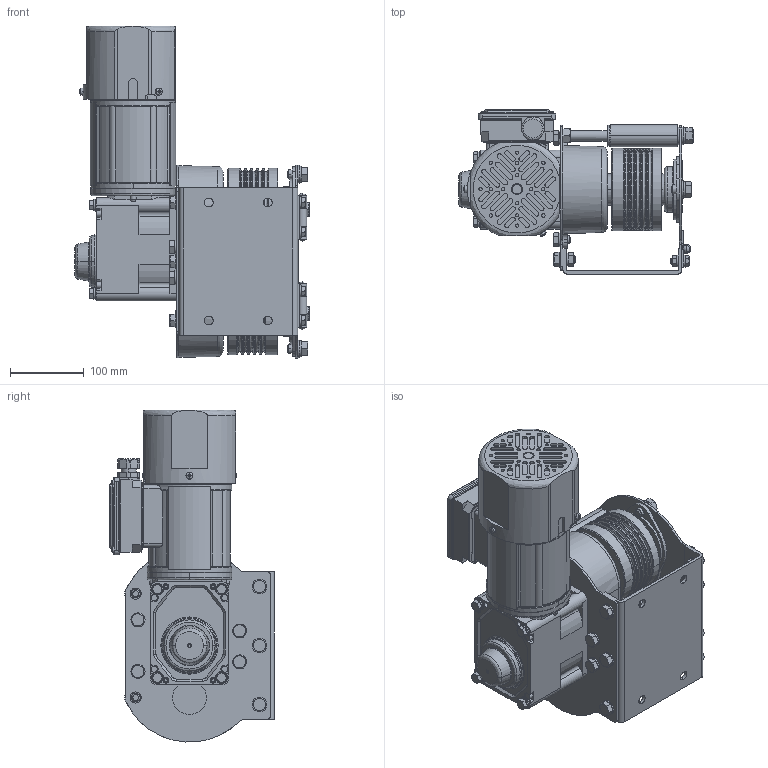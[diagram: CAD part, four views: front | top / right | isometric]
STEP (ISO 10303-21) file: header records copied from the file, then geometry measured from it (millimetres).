
FILE_DESCRIPTION( (''), '2;1');
FILE_NAME ('EMX-150.stp','2023-05-29T10:52:10',(''),(''),'spGate 19.8.2 (****-****-****-****)','','');
FILE_SCHEMA (('AUTOMOTIVE_DESIGN'));
Length unit declared in the file: millimetre
Products named in the file (16): Assembly; EMX-150-prt0; EMX-150-prt1; EMX-150-prt2; EMX-150-prt3; EMX-150-prt4; EMX-150-prt5; EMX-150-prt6; EMX-150-prt7; EMX-150-prt8; EMX-150-prt9; EMX-150-prt10; EMX-150-prt11; EMX-150-prt12; EMX-150-prt13; EMX-150-prt14
Assembly tree (15 placements, depth 2):
  Assembly
    EMX-150-prt0
    EMX-150-prt1
    EMX-150-prt2
    EMX-150-prt3
    EMX-150-prt4
    EMX-150-prt5
    EMX-150-prt6
    EMX-150-prt7
    EMX-150-prt8
    EMX-150-prt9
    EMX-150-prt10
    EMX-150-prt11
    EMX-150-prt12
    EMX-150-prt13
    EMX-150-prt14
Bounding box: 317.85 x 223.2 x 450.35 mm (x, y, z)
Volume: 8675227 mm3; surface area: 755369.2 mm2
Topology: 15 solids, 15 shells, 2526 faces, 6379 edges, 4071 vertices
Faces by surface type: plane 1255, cylinder 855, bspline 392, sphere 24
Entity records: 134965 total; most frequent: CARTESIAN_POINT 25702, ORIENTED_EDGE 12734, DIRECTION 11586, COLOUR_RGB 8908, PRESENTATION_STYLE_ASSIGNMENT 8908, STYLED_ITEM 8908, EDGE_CURVE 6367, DRAUGHTING_PRE_DEFINED_CURVE_FONT 6367
